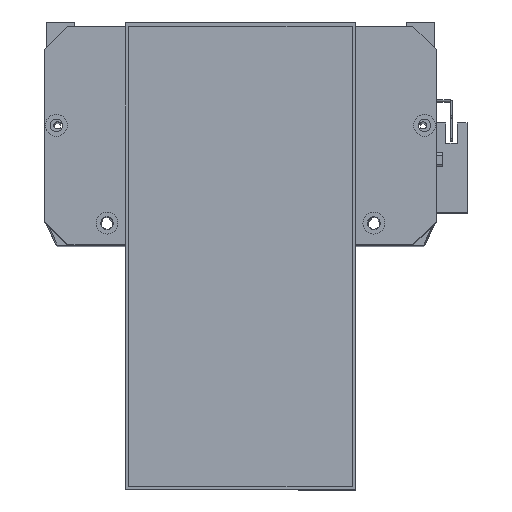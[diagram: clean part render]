
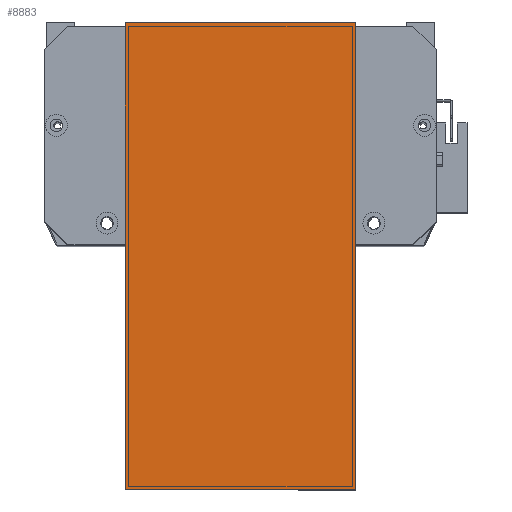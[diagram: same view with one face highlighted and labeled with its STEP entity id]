
A CAD part, top view. The second image highlights one B-rep face of the part: STEP entity #8883.
In plain terms, the highlighted planar face has unit normal (0, 0, 1) as drawn and (0, 0, -1) by its records, which use the part's own axes.
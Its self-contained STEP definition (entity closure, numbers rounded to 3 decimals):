
#278 = LINE ( 'NONE', #7601, #21807 ) ;
#387 = DIRECTION ( 'NONE',  ( 1., 0., 0. ) ) ;
#962 = ORIENTED_EDGE ( 'NONE', *, *, #26623, .F. ) ;
#1443 = CARTESIAN_POINT ( 'NONE',  ( 0., 0., 0. ) ) ;
#2409 = EDGE_LOOP ( 'NONE', ( #2465, #24184, #11051, #962 ) ) ;
#2465 = ORIENTED_EDGE ( 'NONE', *, *, #23939, .F. ) ;
#2533 = CARTESIAN_POINT ( 'NONE',  ( 0., 119.5, 0. ) ) ;
#2979 = DIRECTION ( 'NONE',  ( 0., -1., 0. ) ) ;
#5799 = LINE ( 'NONE', #23765, #16237 ) ;
#7240 = CARTESIAN_POINT ( 'NONE',  ( 203., 19.5, 0. ) ) ;
#7601 = CARTESIAN_POINT ( 'NONE',  ( -12., 119.5, 0. ) ) ;
#7746 = DIRECTION ( 'NONE',  ( 0., 0., -1. ) ) ;
#7904 = CARTESIAN_POINT ( 'NONE',  ( 203., 119.5, 0. ) ) ;
#8538 = CARTESIAN_POINT ( 'NONE',  ( 0., 19.5, 0. ) ) ;
#8883 = ADVANCED_FACE ( 'NONE', ( #13828 ), #13928, .T. ) ;
#9445 = AXIS2_PLACEMENT_3D ( 'NONE', #1443, #7746, #22317 ) ;
#11051 = ORIENTED_EDGE ( 'NONE', *, *, #11744, .T. ) ;
#11744 = EDGE_CURVE ( 'NONE', #26250, #16407, #278, .T. ) ;
#13828 = FACE_OUTER_BOUND ( 'NONE', #2409, .T. ) ;
#13928 = PLANE ( 'NONE',  #9445 ) ;
#14972 = CARTESIAN_POINT ( 'NONE',  ( -12., 19.5, 0. ) ) ;
#14981 = LINE ( 'NONE', #16294, #20551 ) ;
#16237 = VECTOR ( 'NONE', #2979, 1000. ) ;
#16294 = CARTESIAN_POINT ( 'NONE',  ( 203., 0., 0. ) ) ;
#16407 = VERTEX_POINT ( 'NONE', #7904 ) ;
#16835 = VERTEX_POINT ( 'NONE', #7240 ) ;
#17423 = EDGE_CURVE ( 'NONE', #26250, #21339, #5799, .T. ) ;
#18404 = DIRECTION ( 'NONE',  ( 0., 1., 0. ) ) ;
#19666 = LINE ( 'NONE', #14972, #25190 ) ;
#20551 = VECTOR ( 'NONE', #18404, 1000. ) ;
#21339 = VERTEX_POINT ( 'NONE', #8538 ) ;
#21807 = VECTOR ( 'NONE', #26358, 1000. ) ;
#22317 = DIRECTION ( 'NONE',  ( -1., 0., 0. ) ) ;
#23765 = CARTESIAN_POINT ( 'NONE',  ( 0., 0., 0. ) ) ;
#23939 = EDGE_CURVE ( 'NONE', #21339, #16835, #19666, .T. ) ;
#24184 = ORIENTED_EDGE ( 'NONE', *, *, #17423, .F. ) ;
#25190 = VECTOR ( 'NONE', #387, 1000. ) ;
#26250 = VERTEX_POINT ( 'NONE', #2533 ) ;
#26358 = DIRECTION ( 'NONE',  ( 1., 0., 0. ) ) ;
#26623 = EDGE_CURVE ( 'NONE', #16835, #16407, #14981, .T. ) ;
